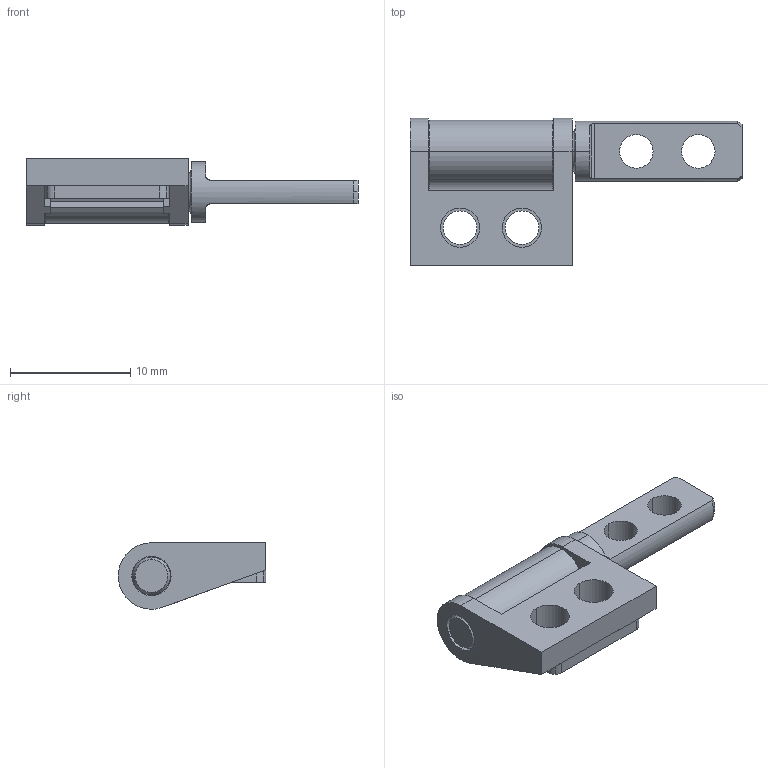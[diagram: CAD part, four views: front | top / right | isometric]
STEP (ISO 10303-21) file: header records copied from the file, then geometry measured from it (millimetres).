
FILE_DESCRIPTION(('STEP AP214'),'1');
FILE_NAME('C:/Users/HAN/Desktop/0500-0401-HNG L Rev 0_0.stp','2014-01-02T19:24:47',(' '),(' '),'Spatial InterOp 3D',' ',' ');
FILE_SCHEMA(('automotive_design'));
Length unit declared in the file: inch
Products named in the file (3): 0500-0004-SHA Rev 0_0; 0500-0001-BND Rev 0_0; 0500-0001-HOU Rev 0_0
Bounding box: 27.65 x 12.29 x 5.54 mm (x, y, z)
Volume: 653.8 mm3; surface area: 1272.5 mm2
Topology: 3 solids, 3 shells, 79 faces, 210 edges, 138 vertices
Faces by surface type: cylinder 40, plane 31, cone 6, torus 2
Entity records: 3214 total; most frequent: CARTESIAN_POINT 478, DIRECTION 450, ORIENTED_EDGE 420, EDGE_CURVE 210, AXIS2_PLACEMENT_3D 170, VERTEX_POINT 138, LINE 110, VECTOR 110
